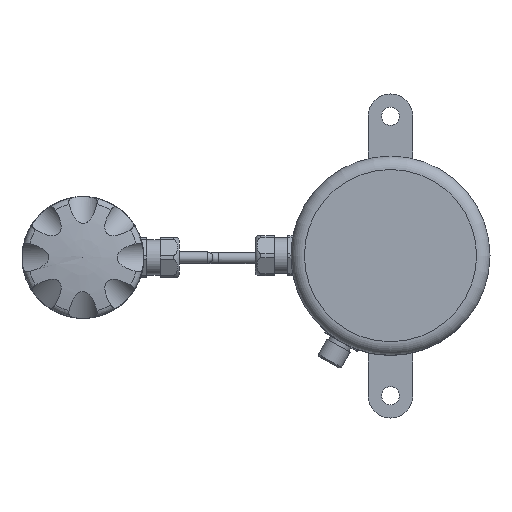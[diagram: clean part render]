
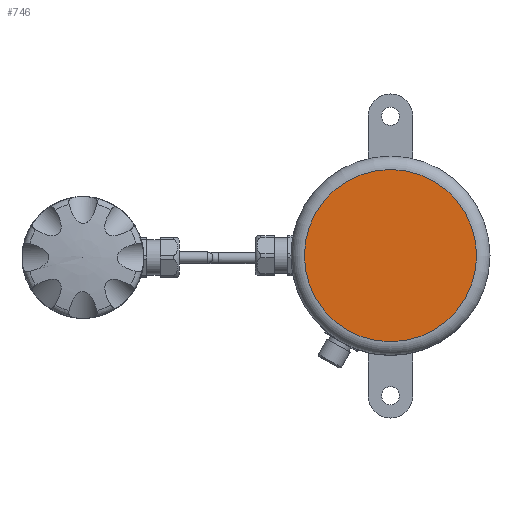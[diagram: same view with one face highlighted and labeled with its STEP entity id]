
A CAD part, top view. The second image highlights one B-rep face of the part: STEP entity #746.
In plain terms, the highlighted planar face has unit normal (0, 0, 1).
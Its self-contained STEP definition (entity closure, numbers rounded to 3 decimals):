
#746 = ADVANCED_FACE( '', ( #1705 ), #1706, .T. );
#1705 = FACE_OUTER_BOUND( '', #2845, .T. );
#1706 = PLANE( '', #2846 );
#2845 = EDGE_LOOP( '', ( #4741 ) );
#2846 = AXIS2_PLACEMENT_3D( '', #4742, #4743, #4744 );
#4741 = ORIENTED_EDGE( '', *, *, #6089, .T. );
#4742 = CARTESIAN_POINT( '', ( 137.48, 1., -42.262 ) );
#4743 = DIRECTION( '', ( 0., 0., 1. ) );
#4744 = DIRECTION( '', ( 0., -1., 0. ) );
#6089 = EDGE_CURVE( '', #7266, #7266, #7267, .T. );
#7266 = VERTEX_POINT( '', #9948 );
#7267 = CIRCLE( '', #9949, 38.5 );
#9948 = CARTESIAN_POINT( '', ( 137.48, -37.5, -42.262 ) );
#9949 = AXIS2_PLACEMENT_3D( '', #11249, #11250, #11251 );
#11249 = CARTESIAN_POINT( '', ( 137.48, 1., -42.262 ) );
#11250 = DIRECTION( '', ( 0., 0., 1. ) );
#11251 = DIRECTION( '', ( 0., -1., 0. ) );
